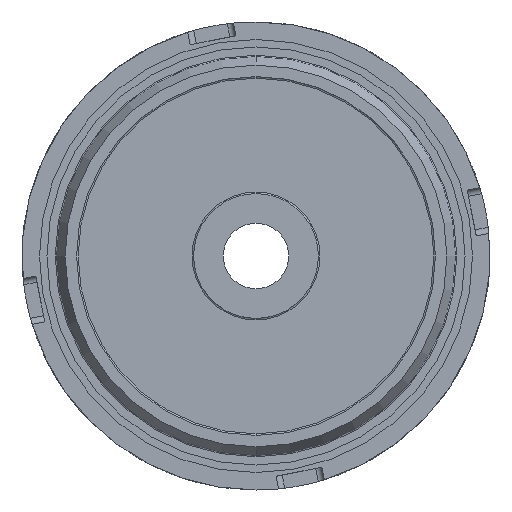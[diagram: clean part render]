
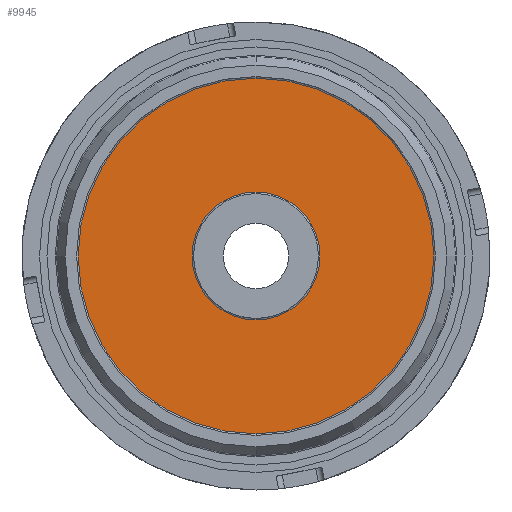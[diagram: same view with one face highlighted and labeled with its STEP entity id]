
A CAD part, front view. The second image highlights one B-rep face of the part: STEP entity #9945.
In plain terms, the highlighted planar face has unit normal (0, -1, 0).
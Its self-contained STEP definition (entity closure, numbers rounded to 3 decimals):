
#2274 = EDGE_CURVE ( 'NONE', #4617, #22169, #36769, .T. ) ;
#2548 = EDGE_CURVE ( 'NONE', #52749, #64726, #52197, .T. ) ;
#2717 = FACE_OUTER_BOUND ( 'NONE', #16411, .T. ) ;
#4142 = CARTESIAN_POINT ( 'NONE',  ( 0., 6., 0. ) ) ;
#4194 = DIRECTION ( 'NONE',  ( 0., 0., -1. ) ) ;
#4258 = DIRECTION ( 'NONE',  ( 0., 1., 0. ) ) ;
#4399 = DIRECTION ( 'NONE',  ( 0., 0., -1. ) ) ;
#4414 = CARTESIAN_POINT ( 'NONE',  ( 0., 6., 0. ) ) ;
#4617 = VERTEX_POINT ( 'NONE', #37555 ) ;
#5067 = AXIS2_PLACEMENT_3D ( 'NONE', #50505, #50421, #49634 ) ;
#6201 = CARTESIAN_POINT ( 'NONE',  ( 0., 6., 0. ) ) ;
#6427 = DIRECTION ( 'NONE',  ( 0., 0., -1. ) ) ;
#9321 = DIRECTION ( 'NONE',  ( 0., 0., -1. ) ) ;
#9945 = ADVANCED_FACE ( 'NONE', ( #2717, #43572 ), #31919, .T. ) ;
#13214 = AXIS2_PLACEMENT_3D ( 'NONE', #4414, #4258, #4194 ) ;
#16411 = EDGE_LOOP ( 'NONE', ( #41496, #54226 ) ) ;
#20145 = CIRCLE ( 'NONE', #51562, 20.5 ) ;
#21107 = ORIENTED_EDGE ( 'NONE', *, *, #2548, .T. ) ;
#21823 = AXIS2_PLACEMENT_3D ( 'NONE', #6201, #37035, #6427 ) ;
#22169 = VERTEX_POINT ( 'NONE', #34864 ) ;
#24969 = CIRCLE ( 'NONE', #31629, 57. ) ;
#27956 = CARTESIAN_POINT ( 'NONE',  ( 0., 6., 20.5 ) ) ;
#28282 = EDGE_CURVE ( 'NONE', #22169, #4617, #24969, .T. ) ;
#30737 = ORIENTED_EDGE ( 'NONE', *, *, #60090, .T. ) ;
#30847 = CARTESIAN_POINT ( 'NONE',  ( 0., 6., -20.5 ) ) ;
#31629 = AXIS2_PLACEMENT_3D ( 'NONE', #4142, #39949, #9321 ) ;
#31919 = PLANE ( 'NONE',  #21823 ) ;
#34864 = CARTESIAN_POINT ( 'NONE',  ( 0., 6., 57. ) ) ;
#35046 = DIRECTION ( 'NONE',  ( 0., 1., 0. ) ) ;
#36769 = CIRCLE ( 'NONE', #5067, 57. ) ;
#37035 = DIRECTION ( 'NONE',  ( 0., -1., 0. ) ) ;
#37555 = CARTESIAN_POINT ( 'NONE',  ( 0., 6., -57. ) ) ;
#39949 = DIRECTION ( 'NONE',  ( 0., -1., 0. ) ) ;
#41496 = ORIENTED_EDGE ( 'NONE', *, *, #2274, .T. ) ;
#43572 = FACE_BOUND ( 'NONE', #61345, .T. ) ;
#49634 = DIRECTION ( 'NONE',  ( 0., 0., -1. ) ) ;
#50421 = DIRECTION ( 'NONE',  ( 0., -1., 0. ) ) ;
#50505 = CARTESIAN_POINT ( 'NONE',  ( 0., 6., 0. ) ) ;
#51562 = AXIS2_PLACEMENT_3D ( 'NONE', #65766, #35046, #4399 ) ;
#52197 = CIRCLE ( 'NONE', #13214, 20.5 ) ;
#52749 = VERTEX_POINT ( 'NONE', #27956 ) ;
#54226 = ORIENTED_EDGE ( 'NONE', *, *, #28282, .T. ) ;
#60090 = EDGE_CURVE ( 'NONE', #64726, #52749, #20145, .T. ) ;
#61345 = EDGE_LOOP ( 'NONE', ( #30737, #21107 ) ) ;
#64726 = VERTEX_POINT ( 'NONE', #30847 ) ;
#65766 = CARTESIAN_POINT ( 'NONE',  ( 0., 6., 0. ) ) ;
